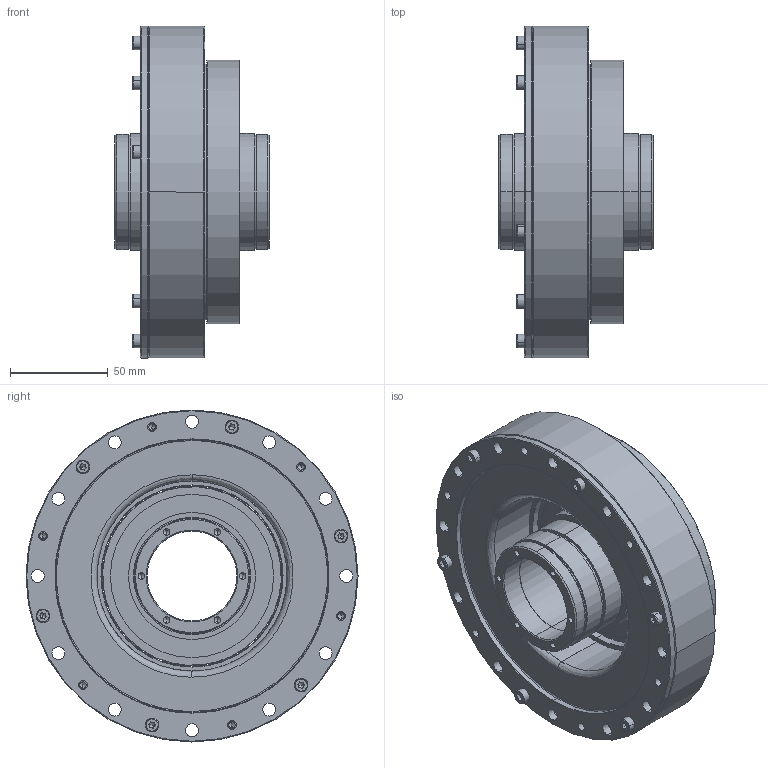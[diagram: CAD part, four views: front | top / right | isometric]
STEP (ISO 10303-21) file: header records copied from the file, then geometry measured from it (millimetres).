
FILE_DESCRIPTION (( 'STEP AP203' ), '1' );
FILE_NAME ('LHSG-40-XXX-C-III-ST.step', '2025-01-07T07:27:11', ( '' ), ( '' ), 'SwSTEP 2.0', 'SolidWorks 2023', '' );
FILE_SCHEMA (( 'CONFIG_CONTROL_DESIGN' ));
Length unit declared in the file: metre
Products named in the file (1): LHSG-40-XXX-C-III-ST
Bounding box: 79 x 170 x 170 mm (x, y, z)
Volume: 639236.2 mm3; surface area: 287510.3 mm2
Topology: 43 solids, 43 shells, 966 faces, 2331 edges, 1358 vertices
Faces by surface type: cylinder 411, plane 253, cone 172, bspline 130
Entity records: 31477 total; most frequent: CARTESIAN_POINT 9376, DIRECTION 4939, ORIENTED_EDGE 4286, EDGE_CURVE 2143, AXIS2_PLACEMENT_3D 2035, VERTEX_POINT 1358, EDGE_LOOP 1201, CIRCLE 1198
